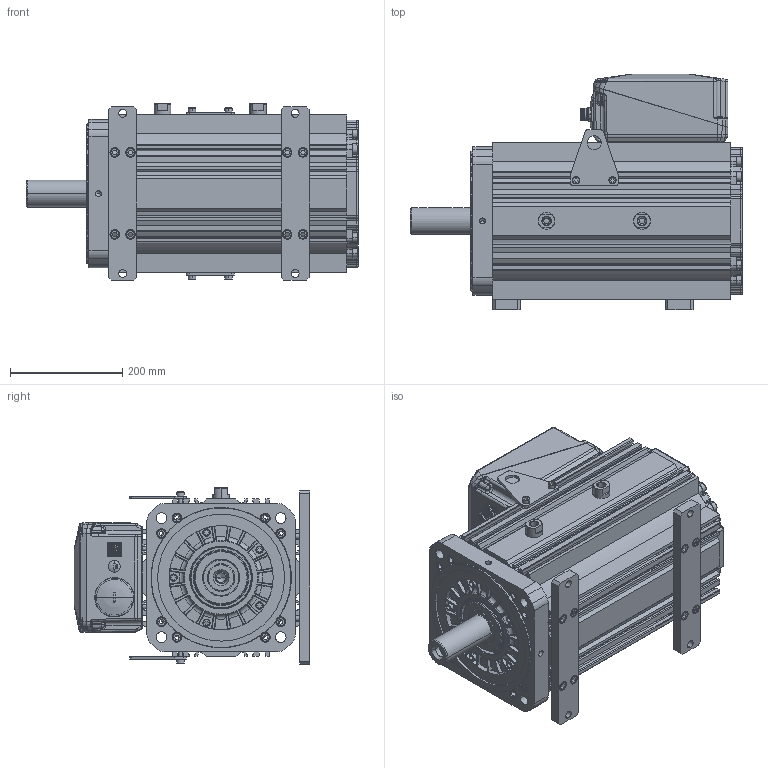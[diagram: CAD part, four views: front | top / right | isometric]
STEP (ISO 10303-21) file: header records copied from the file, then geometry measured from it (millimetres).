
FILE_DESCRIPTION((''),'2;1');
FILE_NAME('50263N-0_SW0001','2016-06-30T',('zhuanghaohui'),(''),'PRO/ENGINEER BY PARAMETRIC TECHNOLOGY CORPORATION, 2010430','PRO/ENGINEER BY PARAMETRIC TECHNOLOGY CORPORATION, 2010430','');
FILE_SCHEMA(('CONFIG_CONTROL_DESIGN'));
Products named in the file (1): 50263N-0_SW0001
Bounding box: 591.02 x 419.62 x 314.15 mm (x, y, z)
Surface area: 2199286.3 mm2 (no closed solid volume)
Topology: 0 solids, 169 shells, 2771 faces, 9629 edges, 6794 vertices
Faces by surface type: plane 900, cylinder 815, bspline 542, cone 296, torus 198, sphere 16, revolution 4
Entity records: 222452 total; most frequent: CARTESIAN_POINT 145447, ORIENTED_EDGE 15252, DIRECTION 14914, EDGE_CURVE 9617, VERTEX_POINT 6794, AXIS2_PLACEMENT_3D 5484, VECTOR 3942, LINE 3942
